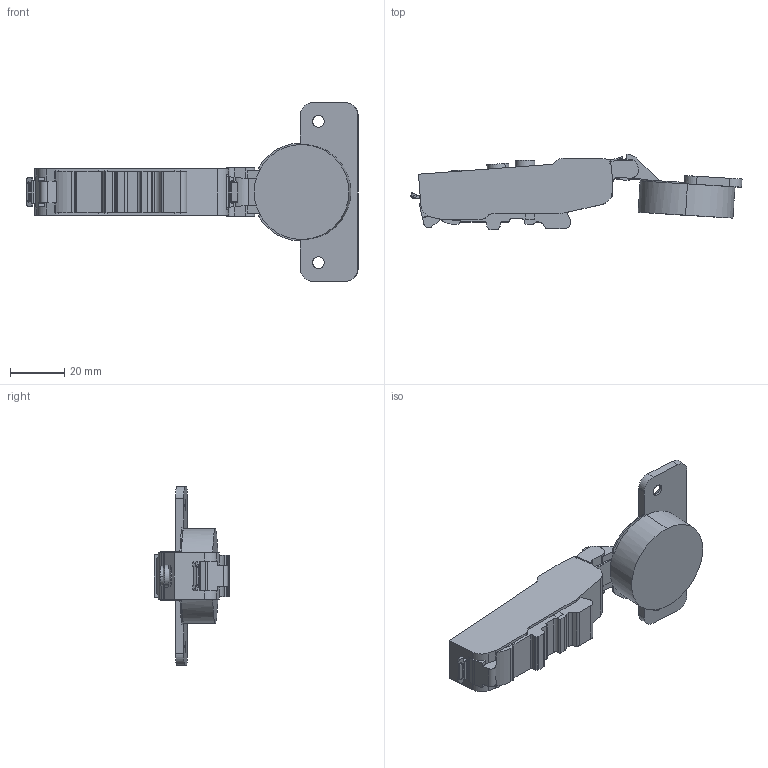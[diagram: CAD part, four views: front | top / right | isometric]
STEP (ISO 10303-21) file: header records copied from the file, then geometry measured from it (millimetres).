
FILE_DESCRIPTION (( 'STEP AP203' ), '1' );
FILE_NAME ('C81B817FAB DTC 3D OPEN.STEP', '2024-07-19T08:07:07', ( '微软用户' ), ( '微软中国' ), 'SwSTEP 2.0', 'SolidWorks 2021', '' );
FILE_SCHEMA (( 'CONFIG_CONTROL_DESIGN' ));
Length unit declared in the file: millimetre
Products named in the file (1): C81B817FAB DTC 3D OPEN
Bounding box: 122.01 x 27.65 x 65.6 mm (x, y, z)
Volume: 40571.5 mm3; surface area: 12335.8 mm2
Topology: 1 solids, 1 shells, 328 faces, 935 edges, 611 vertices
Faces by surface type: plane 147, cylinder 129, bspline 24, torus 24, cone 4
Entity records: 11378 total; most frequent: CARTESIAN_POINT 2846, ORIENTED_EDGE 1866, DIRECTION 1713, EDGE_CURVE 933, VERTEX_POINT 611, AXIS2_PLACEMENT_3D 600, VECTOR 513, LINE 513
